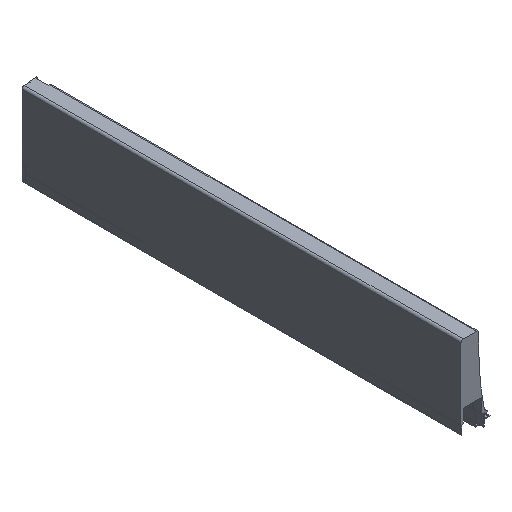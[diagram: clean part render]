
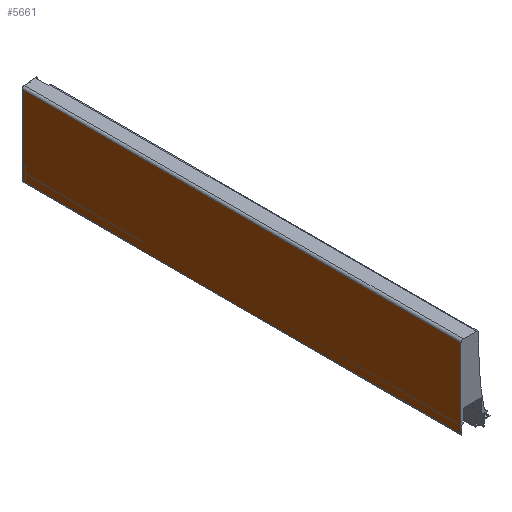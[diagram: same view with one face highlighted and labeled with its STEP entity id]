
A CAD part, isometric view. The second image highlights one B-rep face of the part: STEP entity #5661.
In plain terms, the highlighted planar face has unit normal (-1, 0, 0).
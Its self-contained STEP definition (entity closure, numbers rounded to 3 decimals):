
#63 = FACE_OUTER_BOUND ( 'NONE', #2563, .T. ) ;
#759 = VECTOR ( 'NONE', #5380, 1000. ) ;
#767 = LINE ( 'NONE', #5385, #759 ) ;
#1142 = VERTEX_POINT ( 'NONE', #4935 ) ;
#1601 = CARTESIAN_POINT ( 'NONE',  ( -4.1, 0., -28.503 ) ) ;
#1615 = DIRECTION ( 'NONE',  ( 0., 0., -1. ) ) ;
#1715 = CARTESIAN_POINT ( 'NONE',  ( -4.1, 590., 78.498 ) ) ;
#1716 = DIRECTION ( 'NONE',  ( 0., -1., 0. ) ) ;
#1730 = CARTESIAN_POINT ( 'NONE',  ( -4.1, 590., 64.411 ) ) ;
#1731 = DIRECTION ( 'NONE',  ( 0., 0., -1. ) ) ;
#1877 = CARTESIAN_POINT ( 'NONE',  ( -4.1, 0., 78.498 ) ) ;
#2033 = CARTESIAN_POINT ( 'NONE',  ( -4.1, 590., -28.503 ) ) ;
#2034 = PLANE ( 'NONE',  #3684 ) ;
#2036 = DIRECTION ( 'NONE',  ( 1., 0., 0. ) ) ;
#2037 = DIRECTION ( 'NONE',  ( 0., 0., -1. ) ) ;
#2563 = EDGE_LOOP ( 'NONE', ( #2854, #2855, #2856, #2857 ) ) ;
#2854 = ORIENTED_EDGE ( 'NONE', *, *, #4293, .F. ) ;
#2855 = ORIENTED_EDGE ( 'NONE', *, *, #4350, .F. ) ;
#2856 = ORIENTED_EDGE ( 'NONE', *, *, #4357, .T. ) ;
#2857 = ORIENTED_EDGE ( 'NONE', *, *, #3796, .T. ) ;
#3200 = LINE ( 'NONE', #1601, #5868 ) ;
#3482 = VERTEX_POINT ( 'NONE', #4594 ) ;
#3490 = VERTEX_POINT ( 'NONE', #4570 ) ;
#3684 = AXIS2_PLACEMENT_3D ( 'NONE', #2033, #2036, #2037 ) ;
#3796 = EDGE_CURVE ( 'NONE', #3490, #1142, #767, .T. ) ;
#4293 = EDGE_CURVE ( 'NONE', #5611, #1142, #3200, .T. ) ;
#4350 = EDGE_CURVE ( 'NONE', #3482, #5611, #5774, .T. ) ;
#4357 = EDGE_CURVE ( 'NONE', #3482, #3490, #5788, .T. ) ;
#4570 = CARTESIAN_POINT ( 'NONE',  ( -4.1, 590., -28.503 ) ) ;
#4594 = CARTESIAN_POINT ( 'NONE',  ( -4.1, 590., 78.498 ) ) ;
#4935 = CARTESIAN_POINT ( 'NONE',  ( -4.1, 0., -28.503 ) ) ;
#5380 = DIRECTION ( 'NONE',  ( 0., -1., 0. ) ) ;
#5385 = CARTESIAN_POINT ( 'NONE',  ( -4.1, 590., -28.503 ) ) ;
#5611 = VERTEX_POINT ( 'NONE', #1877 ) ;
#5661 = ADVANCED_FACE ( 'NONE', ( #63 ), #2034, .F. ) ;
#5763 = VECTOR ( 'NONE', #1731, 1000. ) ;
#5773 = VECTOR ( 'NONE', #1716, 1000. ) ;
#5774 = LINE ( 'NONE', #1715, #5773 ) ;
#5788 = LINE ( 'NONE', #1730, #5763 ) ;
#5868 = VECTOR ( 'NONE', #1615, 1000. ) ;
